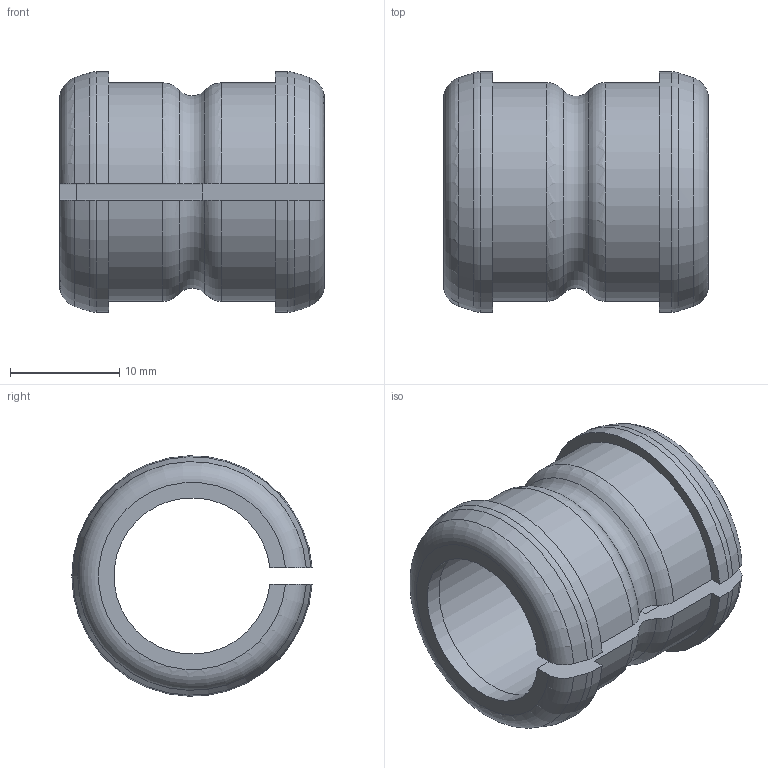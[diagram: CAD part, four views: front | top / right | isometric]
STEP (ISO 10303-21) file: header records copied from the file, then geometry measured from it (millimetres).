
FILE_DESCRIPTION(('Creo Elements/Direct Modeling STEP Export'),'2;1');
FILE_NAME('H23-0001-CL901-00_GCH-TM-ADG13.stp','2023-06-08T 9:24:12',(''),(''),'Creo Elements/Direct Modeling STEP processor for AP214 (Solid Model)','Creo Elements/Direct Modeling 20.3B 05-Dec-2020 (C) Parametric Technology GmbH','');
FILE_SCHEMA(('AUTOMOTIVE_DESIGN { 1 0 10303 214 1 1 1 1 }'));
Length unit declared in the file: millimetre
Products named in the file (2): GCH-TM-ADG13
Assembly tree (1 placements, depth 2):
  GCH-TM-ADG13
    GCH-TM-ADG13
Bounding box: 24.2 x 21.97 x 21.99 mm (x, y, z)
Volume: 3103 mm3; surface area: 3197.5 mm2
Topology: 1 solids, 1 shells, 24 faces, 66 edges, 44 vertices
Faces by surface type: plane 8, cylinder 7, torus 7, cone 2
Entity records: 1040 total; most frequent: CARTESIAN_POINT 381, ORIENTED_EDGE 132, DIRECTION 120, EDGE_CURVE 66, AXIS2_PLACEMENT_3D 47, VERTEX_POINT 44, VECTOR 26, LINE 26
